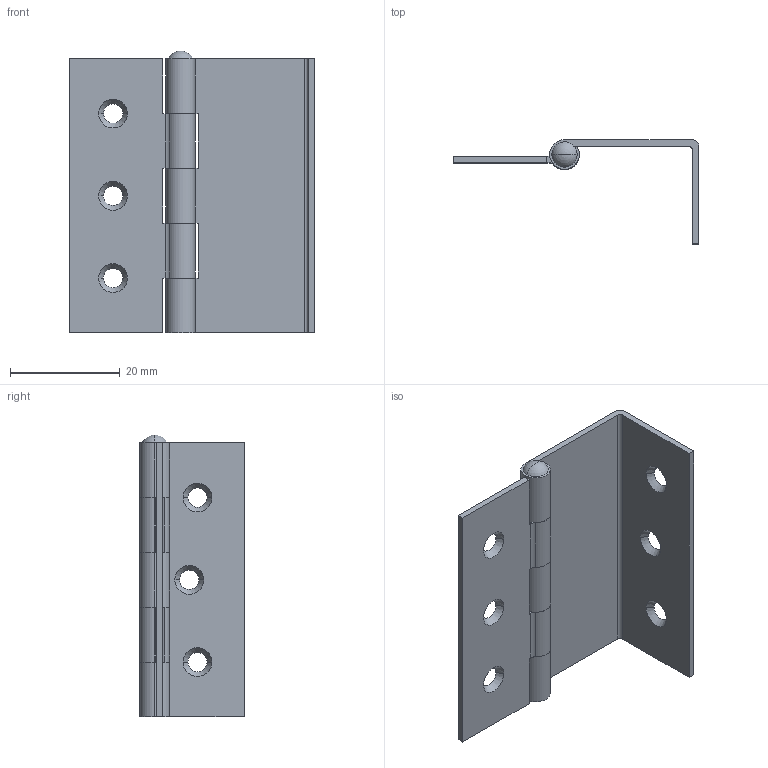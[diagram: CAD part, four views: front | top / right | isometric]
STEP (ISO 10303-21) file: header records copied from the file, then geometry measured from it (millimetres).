
FILE_DESCRIPTION((''),'2;1');
FILE_NAME('6032.01.stp','2011-08-12T10:32:01',(''),(''),'Mechanical Desktop 2006','Mechanical Desktop 2006',', , ');
FILE_SCHEMA(('CONFIG_CONTROL_DESIGN'));
Length unit declared in the file: millimetre
Products named in the file (1): 6032.01
Bounding box: 44.8 x 19 x 51.4 mm (x, y, z)
Volume: 4445.4 mm3; surface area: 7509.6 mm2
Topology: 2 solids, 2 shells, 81 faces, 241 edges, 158 vertices
Faces by surface type: cylinder 33, plane 32, cone 14, sphere 2
Entity records: 2863 total; most frequent: DIRECTION 508, CARTESIAN_POINT 477, ORIENTED_EDGE 476, EDGE_CURVE 238, AXIS2_PLACEMENT_3D 188, VERTEX_POINT 157, VECTOR 132, LINE 132
